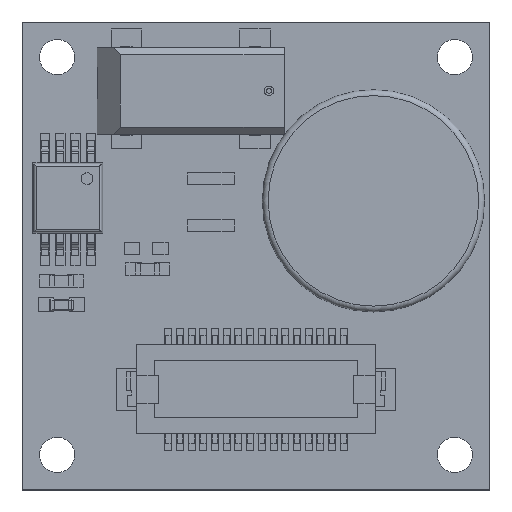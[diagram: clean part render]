
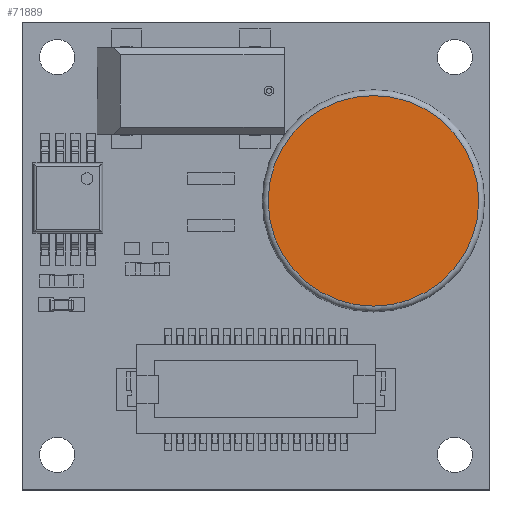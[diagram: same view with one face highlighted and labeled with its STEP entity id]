
A CAD part, top view. The second image highlights one B-rep face of the part: STEP entity #71889.
In plain terms, the highlighted planar face has unit normal (0, 0, 1).
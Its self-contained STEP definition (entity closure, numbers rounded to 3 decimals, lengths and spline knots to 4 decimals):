
#71769 = TOROIDAL_SURFACE('',#71770,4.5,0.25);
#71770 = AXIS2_PLACEMENT_3D('',#71771,#71772,#71773);
#71771 = CARTESIAN_POINT('',(25.019,22.352,2.45));
#71772 = DIRECTION('',(0.,0.,1.));
#71773 = DIRECTION('',(-1.,0.,0.));
#71786 = VERTEX_POINT('',#71787);
#71787 = CARTESIAN_POINT('',(20.519,22.352,2.7));
#71809 = EDGE_CURVE('',#71786,#71786,#71810,.T.);
#71810 = SURFACE_CURVE('',#71811,(#71816,#71823),.PCURVE_S1.);
#71811 = CIRCLE('',#71812,4.5);
#71812 = AXIS2_PLACEMENT_3D('',#71813,#71814,#71815);
#71813 = CARTESIAN_POINT('',(25.019,22.352,2.7));
#71814 = DIRECTION('',(0.,0.,1.));
#71815 = DIRECTION('',(-1.,0.,0.));
#71816 = PCURVE('',#71769,#71817);
#71817 = DEFINITIONAL_REPRESENTATION('',(#71818),#71822);
#71818 = LINE('',#71819,#71820);
#71819 = CARTESIAN_POINT('',(0.,1.571));
#71820 = VECTOR('',#71821,1.);
#71821 = DIRECTION('',(1.,0.));
#71822 = ( GEOMETRIC_REPRESENTATION_CONTEXT(2) 
PARAMETRIC_REPRESENTATION_CONTEXT() REPRESENTATION_CONTEXT('2D SPACE',''
  ) );
#71823 = PCURVE('',#71824,#71829);
#71824 = PLANE('',#71825);
#71825 = AXIS2_PLACEMENT_3D('',#71826,#71827,#71828);
#71826 = CARTESIAN_POINT('',(25.019,22.352,2.7));
#71827 = DIRECTION('',(0.,0.,1.));
#71828 = DIRECTION('',(-1.,0.,0.));
#71829 = DEFINITIONAL_REPRESENTATION('',(#71830),#71834);
#71830 = CIRCLE('',#71831,4.5);
#71831 = AXIS2_PLACEMENT_2D('',#71832,#71833);
#71832 = CARTESIAN_POINT('',(0.,0.));
#71833 = DIRECTION('',(1.,0.));
#71834 = ( GEOMETRIC_REPRESENTATION_CONTEXT(2) 
PARAMETRIC_REPRESENTATION_CONTEXT() REPRESENTATION_CONTEXT('2D SPACE',''
  ) );
#71889 = ADVANCED_FACE('',(#71890),#71824,.T.);
#71890 = FACE_BOUND('',#71891,.F.);
#71891 = EDGE_LOOP('',(#71892));
#71892 = ORIENTED_EDGE('',*,*,#71809,.F.);
